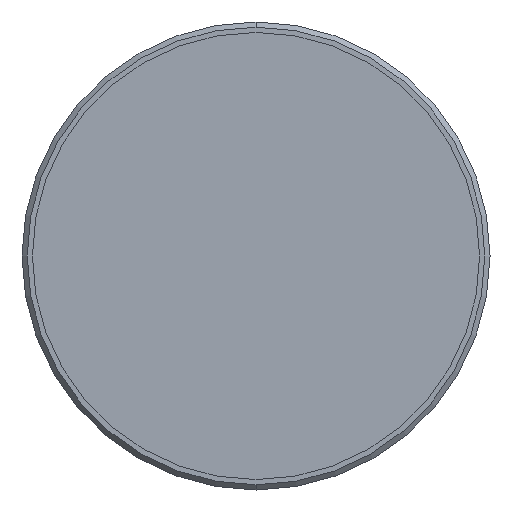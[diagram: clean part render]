
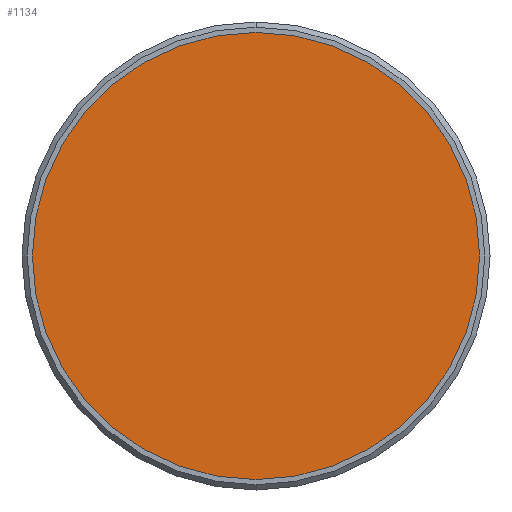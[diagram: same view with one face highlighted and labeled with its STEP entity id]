
A CAD part, front view. The second image highlights one B-rep face of the part: STEP entity #1134.
In plain terms, the highlighted planar face has unit normal (0, -1, 0).
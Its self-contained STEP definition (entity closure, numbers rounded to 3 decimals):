
#9 = AXIS2_PLACEMENT_3D ( 'NONE', #649, #293, #296 ) ;
#67 = PLANE ( 'NONE',  #691 ) ;
#103 = CIRCLE ( 'NONE', #9, 21.5 ) ;
#131 = AXIS2_PLACEMENT_3D ( 'NONE', #830, #665, #219 ) ;
#165 = DIRECTION ( 'NONE',  ( 0., 0., 1. ) ) ;
#219 = DIRECTION ( 'NONE',  ( 0., 0., 1. ) ) ;
#227 = CARTESIAN_POINT ( 'NONE',  ( 0., 0., -21.5 ) ) ;
#244 = CARTESIAN_POINT ( 'NONE',  ( 0., 0., 0. ) ) ;
#293 = DIRECTION ( 'NONE',  ( 0., 1., 0. ) ) ;
#296 = DIRECTION ( 'NONE',  ( 0., 0., 1. ) ) ;
#310 = EDGE_CURVE ( 'NONE', #1002, #940, #659, .T. ) ;
#327 = EDGE_LOOP ( 'NONE', ( #1096, #861 ) ) ;
#337 = FACE_OUTER_BOUND ( 'NONE', #327, .T. ) ;
#649 = CARTESIAN_POINT ( 'NONE',  ( 0., 0., 0. ) ) ;
#659 = CIRCLE ( 'NONE', #131, 21.5 ) ;
#665 = DIRECTION ( 'NONE',  ( 0., 1., 0. ) ) ;
#691 = AXIS2_PLACEMENT_3D ( 'NONE', #244, #698, #165 ) ;
#698 = DIRECTION ( 'NONE',  ( 0., 1., 0. ) ) ;
#702 = EDGE_CURVE ( 'NONE', #940, #1002, #103, .T. ) ;
#773 = CARTESIAN_POINT ( 'NONE',  ( 0., 0., 21.5 ) ) ;
#830 = CARTESIAN_POINT ( 'NONE',  ( 0., 0., 0. ) ) ;
#861 = ORIENTED_EDGE ( 'NONE', *, *, #310, .F. ) ;
#940 = VERTEX_POINT ( 'NONE', #227 ) ;
#1002 = VERTEX_POINT ( 'NONE', #773 ) ;
#1096 = ORIENTED_EDGE ( 'NONE', *, *, #702, .F. ) ;
#1134 = ADVANCED_FACE ( 'NONE', ( #337 ), #67, .F. ) ;
